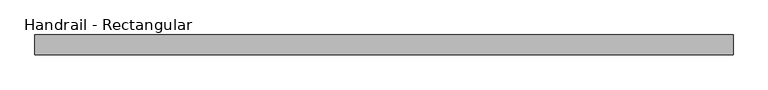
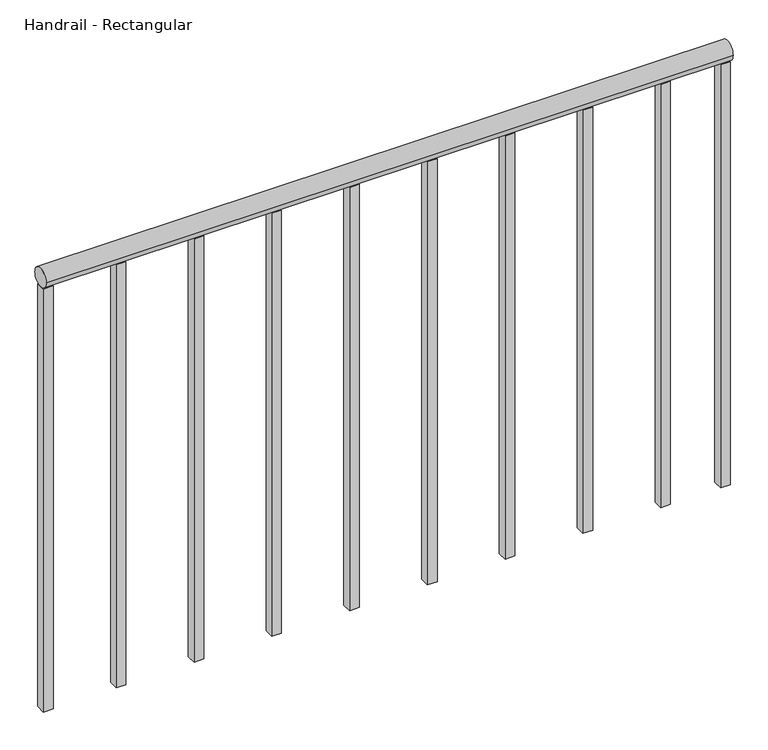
"""IFC4 building model written with IfcOpenShell, lengths in millimetres: railing geometry, Handrail - Rectangular."""

from ifc_helpers import new_model, si_unit, point, frame, frame_2d, origin, place, context, project, spatial, polyline, circle_curve, trimmed, segment, composite_curve, outline, extrude, source, transform, mapped, element, save


def handrail_rectangular_d7a95ee9(model_context):
    return source(origin(), model_context, "Body", "SweptSolid", [
        extrude(outline(composite_curve([segment(trimmed(circle_curve(frame_2d((-35553.1683133, 10039.35)), 19.05), [point((-35572.2183133, 10039.35))], [point((-35534.1183133, 10039.35))], False, "CARTESIAN"), True, "CONTINUOUS"), segment(trimmed(circle_curve(frame_2d((-35553.1683133, 10039.35)), 19.05), [point((-35534.1183133, 10039.35))], [point((-35572.2183133, 10039.35))], False, "CARTESIAN"), True, "CONTINUOUS")], self_intersect=False)), frame((-5665.7589563, 0.0, 0.0), z_axis=(1.0, 0.0, 0.0), x_axis=(0.0, 1.0, 0.0)), (0.0, 0.0, 1.0), 1346.2),
        extrude(outline(polyline([(-4456.0839563, -35543.6433133), (-4437.0339563, -35543.6433133), (-4437.0339563, -35562.6933133), (-4456.0839563, -35562.6933133), (-4456.0839563, -35543.6433133)])), frame((0.0, 0.0, 9144.0), z_axis=(0.0, 0.0, 1.0), x_axis=(1.0, 0.0, 0.0)), (0.0, 0.0, 1.0), 876.3),
        extrude(outline(polyline([(-4608.4839563, -35543.6433133), (-4589.4339563, -35543.6433133), (-4589.4339563, -35562.6933133), (-4608.4839563, -35562.6933133), (-4608.4839563, -35543.6433133)])), frame((0.0, 0.0, 9144.0), z_axis=(0.0, 0.0, 1.0), x_axis=(1.0, 0.0, 0.0)), (0.0, 0.0, 1.0), 876.3),
        extrude(outline(polyline([(-4760.8839563, -35543.6433133), (-4741.8339563, -35543.6433133), (-4741.8339563, -35562.6933133), (-4760.8839563, -35562.6933133), (-4760.8839563, -35543.6433133)])), frame((0.0, 0.0, 9144.0), z_axis=(0.0, 0.0, 1.0), x_axis=(1.0, 0.0, 0.0)), (0.0, 0.0, 1.0), 876.3),
        extrude(outline(polyline([(-4913.2839563, -35543.6433133), (-4894.2339563, -35543.6433133), (-4894.2339563, -35562.6933133), (-4913.2839563, -35562.6933133), (-4913.2839563, -35543.6433133)])), frame((0.0, 0.0, 9144.0), z_axis=(0.0, 0.0, 1.0), x_axis=(1.0, 0.0, 0.0)), (0.0, 0.0, 1.0), 876.3),
        extrude(outline(polyline([(-5065.6839563, -35543.6433133), (-5046.6339563, -35543.6433133), (-5046.6339563, -35562.6933133), (-5065.6839563, -35562.6933133), (-5065.6839563, -35543.6433133)])), frame((0.0, 0.0, 9144.0), z_axis=(0.0, 0.0, 1.0), x_axis=(1.0, 0.0, 0.0)), (0.0, 0.0, 1.0), 876.3),
        extrude(outline(polyline([(-5218.0839563, -35543.6433133), (-5199.0339563, -35543.6433133), (-5199.0339563, -35562.6933133), (-5218.0839563, -35562.6933133), (-5218.0839563, -35543.6433133)])), frame((0.0, 0.0, 9144.0), z_axis=(0.0, 0.0, 1.0), x_axis=(1.0, 0.0, 0.0)), (0.0, 0.0, 1.0), 876.3),
        extrude(outline(polyline([(-5370.4839563, -35543.6433133), (-5351.4339563, -35543.6433133), (-5351.4339563, -35562.6933133), (-5370.4839563, -35562.6933133), (-5370.4839563, -35543.6433133)])), frame((0.0, 0.0, 9144.0), z_axis=(0.0, 0.0, 1.0), x_axis=(1.0, 0.0, 0.0)), (0.0, 0.0, 1.0), 876.3),
        extrude(outline(polyline([(-5522.8839563, -35543.6433133), (-5503.8339563, -35543.6433133), (-5503.8339563, -35562.6933133), (-5522.8839563, -35562.6933133), (-5522.8839563, -35543.6433133)])), frame((0.0, 0.0, 9144.0), z_axis=(0.0, 0.0, 1.0), x_axis=(1.0, 0.0, 0.0)), (0.0, 0.0, 1.0), 876.3),
        extrude(outline(polyline([(-4338.6089563, -35543.6433133), (-4319.5589563, -35543.6433133), (-4319.5589563, -35562.6933133), (-4338.6089563, -35562.6933133), (-4338.6089563, -35543.6433133)])), frame((0.0, 0.0, 9144.0), z_axis=(0.0, 0.0, 1.0), x_axis=(1.0, 0.0, 0.0)), (0.0, 0.0, 1.0), 876.3),
        extrude(outline(polyline([(-5665.7589563, -35543.6433133), (-5646.7089563, -35543.6433133), (-5646.7089563, -35562.6933133), (-5665.7589563, -35562.6933133), (-5665.7589563, -35543.6433133)])), frame((0.0, 0.0, 9144.0), z_axis=(0.0, 0.0, 1.0), x_axis=(1.0, 0.0, 0.0)), (0.0, 0.0, 1.0), 876.3),
    ])


if __name__ == "__main__":
    model = new_model("IFC4")
    model_context = context("Model", 3, world=origin())
    ifc_project = project(units=[si_unit("LENGTHUNIT", "METRE", prefix="MILLI")], contexts=[model_context])
    site = spatial("IfcSite", under=ifc_project)
    building = spatial("IfcBuilding", under=site)
    placement = place(None, origin())
    handrail_rectangular_shape = handrail_rectangular_d7a95ee9(model_context)
    element("IfcRailing", 1, ObjectType="Handrail - Rectangular", at=placement, inside=building, context=model_context, shape_type="MappedRepresentation", body=[
        mapped(handrail_rectangular_shape, transform((0.0, 0.0, 0.0), x_axis=(1.0, 0.0, 0.0), y_axis=(0.0, 1.0, 0.0), z_axis=(0.0, 0.0, 1.0))),
    ])
    save(model, "model.ifc")
